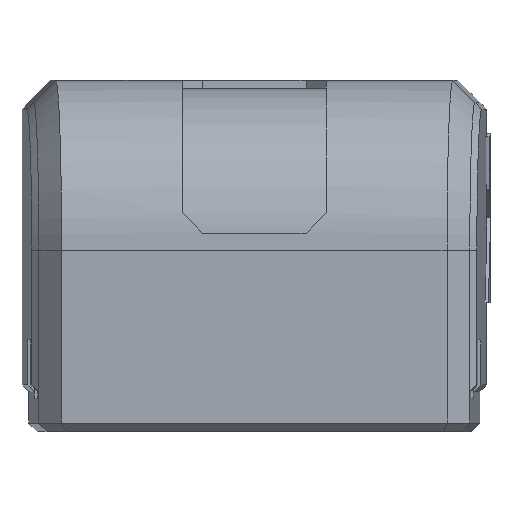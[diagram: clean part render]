
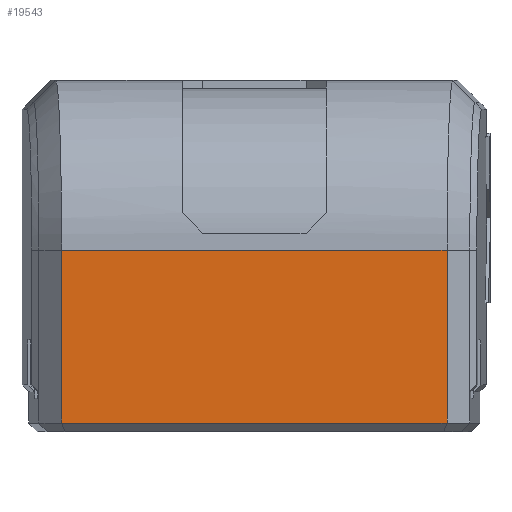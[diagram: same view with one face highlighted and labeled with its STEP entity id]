
A CAD part, front view. The second image highlights one B-rep face of the part: STEP entity #19543.
In plain terms, the highlighted planar face has unit normal (0, -1, 0).
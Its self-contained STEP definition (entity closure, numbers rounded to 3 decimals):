
#9223 = B_SPLINE_SURFACE_WITH_KNOTS('',1,1,(
    (#9224,#9225)
    ,(#9226,#9227
    )),.UNSPECIFIED.,.F.,.F.,.F.,(2,2),(2,2),(0.,22.729),(0.,1.),
  .PIECEWISE_BEZIER_KNOTS.);
#9224 = CARTESIAN_POINT('',(11.158,-36.29,3.89));
#9225 = CARTESIAN_POINT('',(11.364,-36.8,4.4));
#9226 = CARTESIAN_POINT('',(-11.158,-36.29,3.89));
#9227 = CARTESIAN_POINT('',(-11.364,-36.8,4.4));
#13310 = CYLINDRICAL_SURFACE('',#13311,10.);
#13311 = AXIS2_PLACEMENT_3D('',#13312,#13313,#13314);
#13312 = CARTESIAN_POINT('',(200.,-26.8,14.6));
#13313 = DIRECTION('',(1.,0.,-0.));
#13314 = DIRECTION('',(0.,-1.,0.));
#16175 = VERTEX_POINT('',#16176);
#16176 = CARTESIAN_POINT('',(-11.364,-36.8,4.4));
#16212 = PLANE('',#16213);
#16213 = AXIS2_PLACEMENT_3D('',#16214,#16215,#16216);
#16214 = CARTESIAN_POINT('',(-12.71,-35.501,2.9));
#16215 = DIRECTION('',(0.695,0.719,-0.));
#16216 = DIRECTION('',(0.719,-0.695,0.));
#16228 = VERTEX_POINT('',#16229);
#16229 = CARTESIAN_POINT('',(11.364,-36.8,4.4));
#16251 = EDGE_CURVE('',#16228,#16175,#16252,.T.);
#16252 = SURFACE_CURVE('',#16253,(#16257,#16264),.PCURVE_S1.);
#16253 = LINE('',#16254,#16255);
#16254 = CARTESIAN_POINT('',(11.364,-36.8,4.4));
#16255 = VECTOR('',#16256,1.);
#16256 = DIRECTION('',(-1.,0.,0.));
#16257 = PCURVE('',#9223,#16258);
#16258 = DEFINITIONAL_REPRESENTATION('',(#16259),#16263);
#16259 = LINE('',#16260,#16261);
#16260 = CARTESIAN_POINT('',(0.,1.));
#16261 = VECTOR('',#16262,1.);
#16262 = DIRECTION('',(1.,0.));
#16263 = ( GEOMETRIC_REPRESENTATION_CONTEXT(2) 
PARAMETRIC_REPRESENTATION_CONTEXT() REPRESENTATION_CONTEXT('2D SPACE',''
  ) );
#16264 = PCURVE('',#16265,#16270);
#16265 = PLANE('',#16266);
#16266 = AXIS2_PLACEMENT_3D('',#16267,#16268,#16269);
#16267 = CARTESIAN_POINT('',(-12.664,-36.8,3.9));
#16268 = DIRECTION('',(0.,1.,0.));
#16269 = DIRECTION('',(1.,0.,0.));
#16270 = DEFINITIONAL_REPRESENTATION('',(#16271),#16275);
#16271 = LINE('',#16272,#16273);
#16272 = CARTESIAN_POINT('',(24.029,-0.5));
#16273 = VECTOR('',#16274,1.);
#16274 = DIRECTION('',(-1.,0.));
#16275 = ( GEOMETRIC_REPRESENTATION_CONTEXT(2) 
PARAMETRIC_REPRESENTATION_CONTEXT() REPRESENTATION_CONTEXT('2D SPACE',''
  ) );
#16318 = PLANE('',#16319);
#16319 = AXIS2_PLACEMENT_3D('',#16320,#16321,#16322);
#16320 = CARTESIAN_POINT('',(12.71,-35.501,2.9));
#16321 = DIRECTION('',(0.695,-0.719,0.));
#16322 = DIRECTION('',(-0.719,-0.695,0.));
#18180 = VERTEX_POINT('',#18181);
#18181 = CARTESIAN_POINT('',(11.364,-36.8,14.6));
#18425 = VERTEX_POINT('',#18426);
#18426 = CARTESIAN_POINT('',(-11.364,-36.8,14.6));
#18504 = EDGE_CURVE('',#18180,#18425,#18505,.T.);
#18505 = SURFACE_CURVE('',#18506,(#18510,#18517),.PCURVE_S1.);
#18506 = LINE('',#18507,#18508);
#18507 = CARTESIAN_POINT('',(200.,-36.8,14.6));
#18508 = VECTOR('',#18509,1.);
#18509 = DIRECTION('',(-1.,0.,0.));
#18510 = PCURVE('',#13310,#18511);
#18511 = DEFINITIONAL_REPRESENTATION('',(#18512),#18516);
#18512 = LINE('',#18513,#18514);
#18513 = CARTESIAN_POINT('',(6.283,0.));
#18514 = VECTOR('',#18515,1.);
#18515 = DIRECTION('',(-0.,-1.));
#18516 = ( GEOMETRIC_REPRESENTATION_CONTEXT(2) 
PARAMETRIC_REPRESENTATION_CONTEXT() REPRESENTATION_CONTEXT('2D SPACE',''
  ) );
#18517 = PCURVE('',#16265,#18518);
#18518 = DEFINITIONAL_REPRESENTATION('',(#18519),#18523);
#18519 = LINE('',#18520,#18521);
#18520 = CARTESIAN_POINT('',(212.664,-10.7));
#18521 = VECTOR('',#18522,1.);
#18522 = DIRECTION('',(-1.,0.));
#18523 = ( GEOMETRIC_REPRESENTATION_CONTEXT(2) 
PARAMETRIC_REPRESENTATION_CONTEXT() REPRESENTATION_CONTEXT('2D SPACE',''
  ) );
#19524 = EDGE_CURVE('',#18425,#16175,#19525,.T.);
#19525 = SURFACE_CURVE('',#19526,(#19529,#19535),.PCURVE_S1.);
#19526 = B_SPLINE_CURVE_WITH_KNOTS('',1,(#19527,#19528),.UNSPECIFIED.,
  .F.,.F.,(2,2),(0.,1.),.PIECEWISE_BEZIER_KNOTS.);
#19527 = CARTESIAN_POINT('',(-11.364,-36.8,14.6));
#19528 = CARTESIAN_POINT('',(-11.364,-36.8,2.9));
#19529 = PCURVE('',#16212,#19530);
#19530 = DEFINITIONAL_REPRESENTATION('',(#19531),#19534);
#19531 = B_SPLINE_CURVE_WITH_KNOTS('',1,(#19532,#19533),.UNSPECIFIED.,
  .F.,.F.,(2,2),(0.,1.),.PIECEWISE_BEZIER_KNOTS.);
#19532 = CARTESIAN_POINT('',(1.87,-11.7));
#19533 = CARTESIAN_POINT('',(1.87,0.));
#19534 = ( GEOMETRIC_REPRESENTATION_CONTEXT(2) 
PARAMETRIC_REPRESENTATION_CONTEXT() REPRESENTATION_CONTEXT('2D SPACE',''
  ) );
#19535 = PCURVE('',#16265,#19536);
#19536 = DEFINITIONAL_REPRESENTATION('',(#19537),#19540);
#19537 = B_SPLINE_CURVE_WITH_KNOTS('',1,(#19538,#19539),.UNSPECIFIED.,
  .F.,.F.,(2,2),(0.,1.),.PIECEWISE_BEZIER_KNOTS.);
#19538 = CARTESIAN_POINT('',(1.3,-10.7));
#19539 = CARTESIAN_POINT('',(1.3,1.));
#19540 = ( GEOMETRIC_REPRESENTATION_CONTEXT(2) 
PARAMETRIC_REPRESENTATION_CONTEXT() REPRESENTATION_CONTEXT('2D SPACE',''
  ) );
#19543 = ADVANCED_FACE('',(#19544),#16265,.F.);
#19544 = FACE_BOUND('',#19545,.F.);
#19545 = EDGE_LOOP('',(#19546,#19547,#19548,#19549));
#19546 = ORIENTED_EDGE('',*,*,#16251,.T.);
#19547 = ORIENTED_EDGE('',*,*,#19524,.F.);
#19548 = ORIENTED_EDGE('',*,*,#18504,.F.);
#19549 = ORIENTED_EDGE('',*,*,#19550,.T.);
#19550 = EDGE_CURVE('',#18180,#16228,#19551,.T.);
#19551 = SURFACE_CURVE('',#19552,(#19555,#19561),.PCURVE_S1.);
#19552 = B_SPLINE_CURVE_WITH_KNOTS('',1,(#19553,#19554),.UNSPECIFIED.,
  .F.,.F.,(2,2),(0.,1.),.PIECEWISE_BEZIER_KNOTS.);
#19553 = CARTESIAN_POINT('',(11.364,-36.8,14.6));
#19554 = CARTESIAN_POINT('',(11.364,-36.8,2.9));
#19555 = PCURVE('',#16265,#19556);
#19556 = DEFINITIONAL_REPRESENTATION('',(#19557),#19560);
#19557 = B_SPLINE_CURVE_WITH_KNOTS('',1,(#19558,#19559),.UNSPECIFIED.,
  .F.,.F.,(2,2),(0.,1.),.PIECEWISE_BEZIER_KNOTS.);
#19558 = CARTESIAN_POINT('',(24.029,-10.7));
#19559 = CARTESIAN_POINT('',(24.029,1.));
#19560 = ( GEOMETRIC_REPRESENTATION_CONTEXT(2) 
PARAMETRIC_REPRESENTATION_CONTEXT() REPRESENTATION_CONTEXT('2D SPACE',''
  ) );
#19561 = PCURVE('',#16318,#19562);
#19562 = DEFINITIONAL_REPRESENTATION('',(#19563),#19566);
#19563 = B_SPLINE_CURVE_WITH_KNOTS('',1,(#19564,#19565),.UNSPECIFIED.,
  .F.,.F.,(2,2),(0.,1.),.PIECEWISE_BEZIER_KNOTS.);
#19564 = CARTESIAN_POINT('',(1.87,-11.7));
#19565 = CARTESIAN_POINT('',(1.87,0.));
#19566 = ( GEOMETRIC_REPRESENTATION_CONTEXT(2) 
PARAMETRIC_REPRESENTATION_CONTEXT() REPRESENTATION_CONTEXT('2D SPACE',''
  ) );
